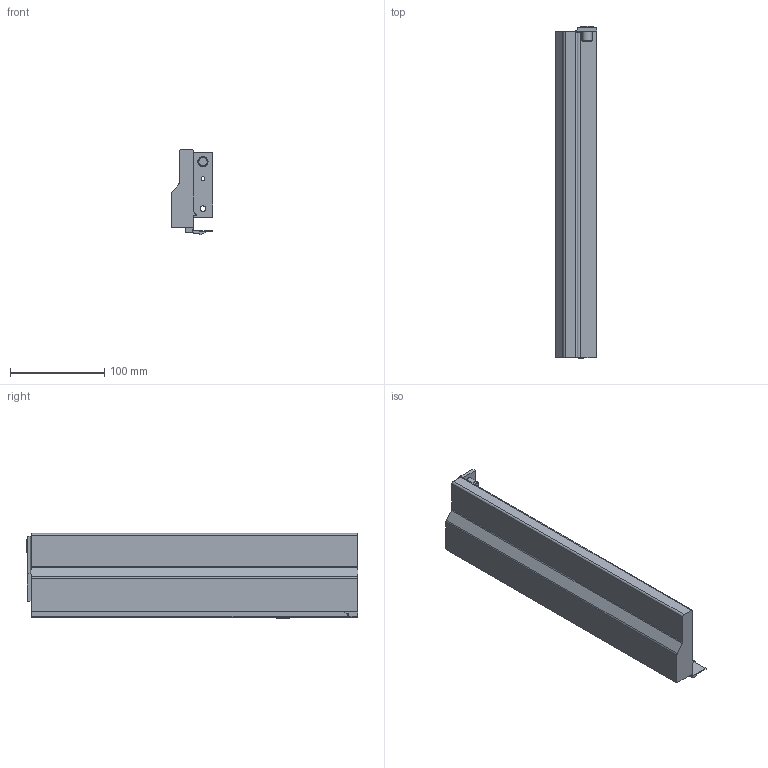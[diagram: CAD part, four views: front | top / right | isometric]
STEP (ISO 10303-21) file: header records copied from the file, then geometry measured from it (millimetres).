
FILE_DESCRIPTION (( 'STEP AP214' ), '1' );
FILE_NAME ('_IMOS_NOVA-Pro_Dekor-H90_CL_NL350_LI.step', '2010-07-06T09:00:42', ( 'grass' ), ( '' ), 'SwSTEP 2.0', 'SolidWorks 2009', '' );
FILE_SCHEMA (( 'AUTOMOTIVE_DESIGN' ));
Length unit declared in the file: millimetre
Products named in the file (1): _IMOS_NOVA-Pro_Dekor-H90_CL_NL350_LI
Bounding box: 44.3 x 352.7 x 90.49 mm (x, y, z)
Volume: 315513.3 mm3; surface area: 122973.6 mm2
Topology: 1 solids, 1 shells, 89 faces, 239 edges, 156 vertices
Faces by surface type: plane 57, cylinder 27, cone 4, bspline 1
Entity records: 2825 total; most frequent: CARTESIAN_POINT 506, ORIENTED_EDGE 478, DIRECTION 474, EDGE_CURVE 239, LINE 178, VECTOR 178, VERTEX_POINT 156, AXIS2_PLACEMENT_3D 148
